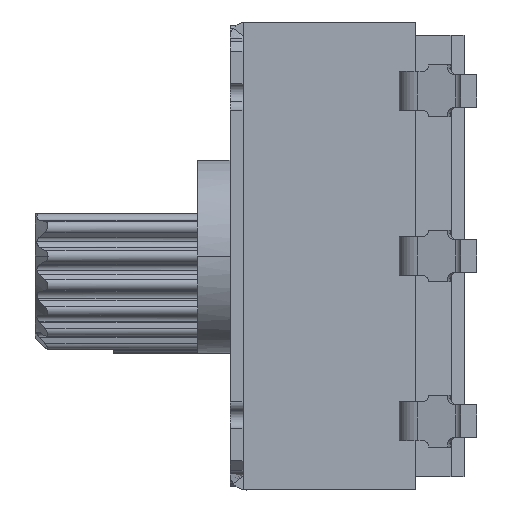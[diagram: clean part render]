
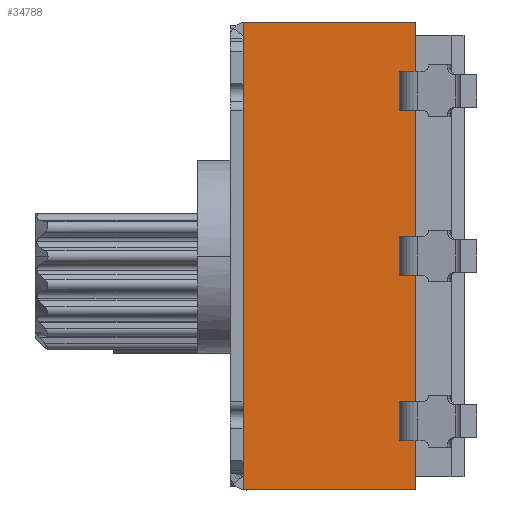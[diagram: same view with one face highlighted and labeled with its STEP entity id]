
A CAD part, left-side view. The second image highlights one B-rep face of the part: STEP entity #34788.
In plain terms, the highlighted planar face has unit normal (-1, 0, 0).
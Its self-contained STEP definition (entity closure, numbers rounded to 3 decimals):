
#175 = EDGE_CURVE ( 'NONE', #52027, #27987, #45855, .T. ) ;
#802 = ORIENTED_EDGE ( 'NONE', *, *, #11007, .F. ) ;
#1010 = EDGE_CURVE ( 'NONE', #45680, #34036, #20912, .T. ) ;
#1035 = LINE ( 'NONE', #47796, #42771 ) ;
#2685 = ORIENTED_EDGE ( 'NONE', *, *, #29877, .T. ) ;
#3052 = CARTESIAN_POINT ( 'NONE',  ( -3.6, 0.75, 3.4 ) ) ;
#4400 = VECTOR ( 'NONE', #16517, 1000. ) ;
#4706 = DIRECTION ( 'NONE',  ( 0., -1., 0. ) ) ;
#4996 = DIRECTION ( 'NONE',  ( 0., 0., -1. ) ) ;
#5098 = LINE ( 'NONE', #47860, #29824 ) ;
#5285 = CARTESIAN_POINT ( 'NONE',  ( -3.6, 0.75, -0.3 ) ) ;
#5327 = VECTOR ( 'NONE', #44606, 1000. ) ;
#5598 = CARTESIAN_POINT ( 'NONE',  ( -3.6, 1., -2.84 ) ) ;
#5718 = LINE ( 'NONE', #35885, #48766 ) ;
#6286 = VECTOR ( 'NONE', #24574, 1000. ) ;
#7202 = EDGE_CURVE ( 'NONE', #30078, #45680, #36406, .T. ) ;
#7507 = EDGE_CURVE ( 'NONE', #43445, #41912, #5718, .T. ) ;
#8259 = CARTESIAN_POINT ( 'NONE',  ( -3.6, 3.4, -3.6 ) ) ;
#9142 = CARTESIAN_POINT ( 'NONE',  ( -3.6, 4.42, 3.6 ) ) ;
#10223 = DIRECTION ( 'NONE',  ( 0., 1., 0. ) ) ;
#10233 = LINE ( 'NONE', #30693, #53275 ) ;
#10898 = CARTESIAN_POINT ( 'NONE',  ( -3.6, 0., -0.3 ) ) ;
#11007 = EDGE_CURVE ( 'NONE', #18797, #15347, #34817, .T. ) ;
#12221 = EDGE_CURVE ( 'NONE', #52027, #35526, #41903, .T. ) ;
#13206 = DIRECTION ( 'NONE',  ( 0., 1., 0. ) ) ;
#13867 = CARTESIAN_POINT ( 'NONE',  ( -3.6, 0.75, 3.4 ) ) ;
#14333 = PLANE ( 'NONE',  #47186 ) ;
#15183 = ORIENTED_EDGE ( 'NONE', *, *, #52956, .F. ) ;
#15283 = VERTEX_POINT ( 'NONE', #5285 ) ;
#15347 = VERTEX_POINT ( 'NONE', #51547 ) ;
#15365 = CARTESIAN_POINT ( 'NONE',  ( -3.6, 3.4, 3.6 ) ) ;
#16347 = CARTESIAN_POINT ( 'NONE',  ( -3.6, 0.75, 3.6 ) ) ;
#16517 = DIRECTION ( 'NONE',  ( 0., -1., 0. ) ) ;
#17227 = CARTESIAN_POINT ( 'NONE',  ( -3.6, 1., -2.24 ) ) ;
#17268 = VECTOR ( 'NONE', #19360, 1000. ) ;
#17707 = VERTEX_POINT ( 'NONE', #24890 ) ;
#18090 = CARTESIAN_POINT ( 'NONE',  ( -3.6, 0.75, -2.84 ) ) ;
#18593 = ORIENTED_EDGE ( 'NONE', *, *, #48669, .F. ) ;
#18797 = VERTEX_POINT ( 'NONE', #35919 ) ;
#19360 = DIRECTION ( 'NONE',  ( 0., 0., -1. ) ) ;
#20391 = VERTEX_POINT ( 'NONE', #8259 ) ;
#20483 = CARTESIAN_POINT ( 'NONE',  ( -3.6, 0.75, -3.6 ) ) ;
#20912 = LINE ( 'NONE', #3052, #5327 ) ;
#21760 = LINE ( 'NONE', #37133, #51141 ) ;
#21862 = LINE ( 'NONE', #10898, #53833 ) ;
#22029 = ORIENTED_EDGE ( 'NONE', *, *, #7507, .T. ) ;
#22803 = ORIENTED_EDGE ( 'NONE', *, *, #7202, .F. ) ;
#23456 = DIRECTION ( 'NONE',  ( 0., -1., 0. ) ) ;
#23608 = ORIENTED_EDGE ( 'NONE', *, *, #1010, .F. ) ;
#23882 = LINE ( 'NONE', #49716, #4400 ) ;
#24289 = LINE ( 'NONE', #38209, #53711 ) ;
#24574 = DIRECTION ( 'NONE',  ( 0., 0., 1. ) ) ;
#24890 = CARTESIAN_POINT ( 'NONE',  ( -3.6, 1., -0.3 ) ) ;
#25021 = FACE_OUTER_BOUND ( 'NONE', #43616, .T. ) ;
#25289 = VECTOR ( 'NONE', #34618, 1000. ) ;
#25363 = EDGE_CURVE ( 'NONE', #17707, #15283, #21862, .T. ) ;
#25383 = ORIENTED_EDGE ( 'NONE', *, *, #26153, .F. ) ;
#26028 = DIRECTION ( 'NONE',  ( 0., 0., 1. ) ) ;
#26153 = EDGE_CURVE ( 'NONE', #34036, #41912, #21760, .T. ) ;
#27987 = VERTEX_POINT ( 'NONE', #17227 ) ;
#29456 = CARTESIAN_POINT ( 'NONE',  ( -3.6, 0.75, 2.84 ) ) ;
#29750 = EDGE_CURVE ( 'NONE', #43445, #18797, #23882, .T. ) ;
#29824 = VECTOR ( 'NONE', #39111, 1000. ) ;
#29877 = EDGE_CURVE ( 'NONE', #20391, #40635, #53260, .T. ) ;
#29962 = CARTESIAN_POINT ( 'NONE',  ( -3.6, 4.42, -3.6 ) ) ;
#30078 = VERTEX_POINT ( 'NONE', #15365 ) ;
#30482 = EDGE_CURVE ( 'NONE', #15347, #53137, #1035, .T. ) ;
#30693 = CARTESIAN_POINT ( 'NONE',  ( -3.6, 3.4, 3.4 ) ) ;
#31263 = DIRECTION ( 'NONE',  ( 1., 0., 0. ) ) ;
#31475 = DIRECTION ( 'NONE',  ( 0., 0., 1. ) ) ;
#32295 = ORIENTED_EDGE ( 'NONE', *, *, #29750, .F. ) ;
#32729 = VECTOR ( 'NONE', #26028, 1000. ) ;
#32974 = LINE ( 'NONE', #41387, #6286 ) ;
#33547 = ORIENTED_EDGE ( 'NONE', *, *, #49225, .T. ) ;
#34036 = VERTEX_POINT ( 'NONE', #29456 ) ;
#34618 = DIRECTION ( 'NONE',  ( 0., -1., 0. ) ) ;
#34788 = ADVANCED_FACE ( 'NONE', ( #25021 ), #14333, .F. ) ;
#34817 = LINE ( 'NONE', #13867, #40072 ) ;
#35067 = ORIENTED_EDGE ( 'NONE', *, *, #35365, .F. ) ;
#35365 = EDGE_CURVE ( 'NONE', #42681, #27987, #24289, .T. ) ;
#35526 = VERTEX_POINT ( 'NONE', #18090 ) ;
#35885 = CARTESIAN_POINT ( 'NONE',  ( -3.6, 1., 3.4 ) ) ;
#35919 = CARTESIAN_POINT ( 'NONE',  ( -3.6, 0.75, 2.24 ) ) ;
#36255 = ORIENTED_EDGE ( 'NONE', *, *, #175, .T. ) ;
#36406 = LINE ( 'NONE', #9142, #25289 ) ;
#36767 = DIRECTION ( 'NONE',  ( 0., 1., 0. ) ) ;
#37133 = CARTESIAN_POINT ( 'NONE',  ( -3.6, 0., 2.84 ) ) ;
#38209 = CARTESIAN_POINT ( 'NONE',  ( -3.6, 0., -2.24 ) ) ;
#38602 = ORIENTED_EDGE ( 'NONE', *, *, #30482, .F. ) ;
#38948 = VECTOR ( 'NONE', #4706, 1000. ) ;
#39111 = DIRECTION ( 'NONE',  ( 0., 0., -1. ) ) ;
#40072 = VECTOR ( 'NONE', #4996, 1000. ) ;
#40635 = VERTEX_POINT ( 'NONE', #20483 ) ;
#41380 = ORIENTED_EDGE ( 'NONE', *, *, #12221, .F. ) ;
#41387 = CARTESIAN_POINT ( 'NONE',  ( -3.6, 1., 3.4 ) ) ;
#41635 = CARTESIAN_POINT ( 'NONE',  ( -3.6, 1., 2.84 ) ) ;
#41844 = CARTESIAN_POINT ( 'NONE',  ( -3.6, 0.75, -2.24 ) ) ;
#41903 = LINE ( 'NONE', #45124, #53609 ) ;
#41912 = VERTEX_POINT ( 'NONE', #41635 ) ;
#42681 = VERTEX_POINT ( 'NONE', #41844 ) ;
#42771 = VECTOR ( 'NONE', #10223, 1000. ) ;
#43445 = VERTEX_POINT ( 'NONE', #50835 ) ;
#43616 = EDGE_LOOP ( 'NONE', ( #35067, #18593, #49080, #43974, #38602, #802, #32295, #22029, #25383, #23608, #22803, #33547, #2685, #15183, #41380, #36255 ) ) ;
#43974 = ORIENTED_EDGE ( 'NONE', *, *, #49857, .T. ) ;
#44240 = DIRECTION ( 'NONE',  ( 0., 1., 0. ) ) ;
#44606 = DIRECTION ( 'NONE',  ( 0., 0., -1. ) ) ;
#44768 = DIRECTION ( 'NONE',  ( 0., -1., 0. ) ) ;
#45124 = CARTESIAN_POINT ( 'NONE',  ( -3.6, 0., -2.84 ) ) ;
#45474 = CARTESIAN_POINT ( 'NONE',  ( -3.6, 1., 0.3 ) ) ;
#45680 = VERTEX_POINT ( 'NONE', #16347 ) ;
#45855 = LINE ( 'NONE', #46857, #32729 ) ;
#46857 = CARTESIAN_POINT ( 'NONE',  ( -3.6, 1., 3.4 ) ) ;
#46952 = DIRECTION ( 'NONE',  ( 0., 0., -1. ) ) ;
#47186 = AXIS2_PLACEMENT_3D ( 'NONE', #48081, #31263, #44240 ) ;
#47796 = CARTESIAN_POINT ( 'NONE',  ( -3.6, 0., 0.3 ) ) ;
#47860 = CARTESIAN_POINT ( 'NONE',  ( -3.6, 0.75, 3.4 ) ) ;
#48081 = CARTESIAN_POINT ( 'NONE',  ( -3.6, 0., 3.4 ) ) ;
#48669 = EDGE_CURVE ( 'NONE', #15283, #42681, #5098, .T. ) ;
#48766 = VECTOR ( 'NONE', #31475, 1000. ) ;
#49080 = ORIENTED_EDGE ( 'NONE', *, *, #25363, .F. ) ;
#49225 = EDGE_CURVE ( 'NONE', #30078, #20391, #10233, .T. ) ;
#49716 = CARTESIAN_POINT ( 'NONE',  ( -3.6, 0., 2.24 ) ) ;
#49857 = EDGE_CURVE ( 'NONE', #17707, #53137, #32974, .T. ) ;
#50835 = CARTESIAN_POINT ( 'NONE',  ( -3.6, 1., 2.24 ) ) ;
#51141 = VECTOR ( 'NONE', #36767, 1000. ) ;
#51547 = CARTESIAN_POINT ( 'NONE',  ( -3.6, 0.75, 0.3 ) ) ;
#52027 = VERTEX_POINT ( 'NONE', #5598 ) ;
#52388 = CARTESIAN_POINT ( 'NONE',  ( -3.6, 0.75, 3.4 ) ) ;
#52466 = LINE ( 'NONE', #52388, #17268 ) ;
#52956 = EDGE_CURVE ( 'NONE', #35526, #40635, #52466, .T. ) ;
#53137 = VERTEX_POINT ( 'NONE', #45474 ) ;
#53260 = LINE ( 'NONE', #29962, #38948 ) ;
#53275 = VECTOR ( 'NONE', #46952, 1000. ) ;
#53609 = VECTOR ( 'NONE', #44768, 1000. ) ;
#53711 = VECTOR ( 'NONE', #13206, 1000. ) ;
#53833 = VECTOR ( 'NONE', #23456, 1000. ) ;
